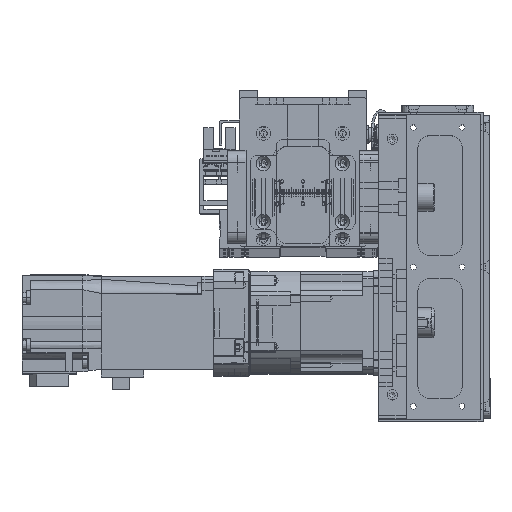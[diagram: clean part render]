
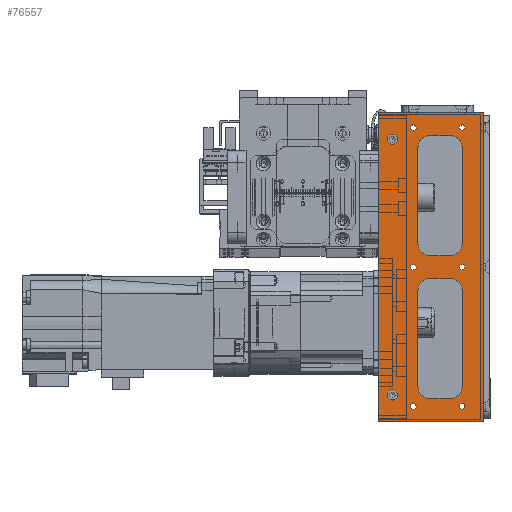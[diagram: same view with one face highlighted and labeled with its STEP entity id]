
A CAD part, top view. The second image highlights one B-rep face of the part: STEP entity #76557.
In plain terms, the highlighted planar face has unit normal (0, 0, 1) as drawn and (0, 1, 0) by its records, which use the part's own axes.
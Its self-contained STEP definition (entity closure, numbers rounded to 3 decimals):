
#1817=FACE_BOUND('',#12203,.T.);
#1818=FACE_BOUND('',#12204,.T.);
#1819=FACE_BOUND('',#12205,.T.);
#1820=FACE_BOUND('',#12206,.T.);
#1821=FACE_BOUND('',#12207,.T.);
#1822=FACE_BOUND('',#12208,.T.);
#1823=FACE_BOUND('',#12209,.T.);
#1824=FACE_BOUND('',#12210,.T.);
#1825=FACE_BOUND('',#12211,.T.);
#1826=FACE_BOUND('',#12212,.T.);
#3580=PLANE('',#84265);
#7542=FACE_OUTER_BOUND('',#12202,.T.);
#12202=EDGE_LOOP('',(#66249,#66250,#66251,#66252));
#12203=EDGE_LOOP('',(#66253));
#12204=EDGE_LOOP('',(#66254));
#12205=EDGE_LOOP('',(#66255));
#12206=EDGE_LOOP('',(#66256));
#12207=EDGE_LOOP('',(#66257));
#12208=EDGE_LOOP('',(#66258));
#12209=EDGE_LOOP('',(#66259));
#12210=EDGE_LOOP('',(#66260));
#12211=EDGE_LOOP('',(#66261,#66262,#66263,#66264,#66265,#66266,#66267,#66268));
#12212=EDGE_LOOP('',(#66269,#66270,#66271,#66272,#66273,#66274,#66275,#66276));
#16404=CIRCLE('',#84086,2.25);
#16408=CIRCLE('',#84092,2.25);
#16419=CIRCLE('',#84113,1.23);
#16423=CIRCLE('',#84119,1.23);
#16427=CIRCLE('',#84125,1.23);
#16431=CIRCLE('',#84131,1.23);
#16435=CIRCLE('',#84137,1.23);
#16439=CIRCLE('',#84143,1.23);
#16472=CIRCLE('',#84196,5.);
#16476=CIRCLE('',#84205,5.);
#16480=CIRCLE('',#84211,5.);
#16482=CIRCLE('',#84217,5.);
#16488=CIRCLE('',#84228,5.);
#16492=CIRCLE('',#84237,5.);
#16496=CIRCLE('',#84243,5.);
#16498=CIRCLE('',#84249,5.);
#21258=LINE('',#127750,#28999);
#21273=LINE('',#127780,#29014);
#21344=LINE('',#128070,#29085);
#21349=LINE('',#128081,#29090);
#21356=LINE('',#128106,#29097);
#21361=LINE('',#128117,#29102);
#21376=LINE('',#128166,#29117);
#21381=LINE('',#128177,#29122);
#21388=LINE('',#128202,#29129);
#21393=LINE('',#128213,#29134);
#21413=LINE('',#128263,#29154);
#21414=LINE('',#128265,#29155);
#28999=VECTOR('',#101171,10.);
#29014=VECTOR('',#101190,10.);
#29085=VECTOR('',#101505,10.);
#29090=VECTOR('',#101514,10.);
#29097=VECTOR('',#101541,10.);
#29102=VECTOR('',#101550,10.);
#29117=VECTOR('',#101601,10.);
#29122=VECTOR('',#101610,10.);
#29129=VECTOR('',#101637,10.);
#29134=VECTOR('',#101646,10.);
#29154=VECTOR('',#101702,10.);
#29155=VECTOR('',#101705,10.);
#37149=VERTEX_POINT('',#127747);
#37150=VERTEX_POINT('',#127749);
#37163=VERTEX_POINT('',#127778);
#37168=VERTEX_POINT('',#127798);
#37172=VERTEX_POINT('',#127810);
#37191=VERTEX_POINT('',#127868);
#37195=VERTEX_POINT('',#127880);
#37199=VERTEX_POINT('',#127892);
#37203=VERTEX_POINT('',#127904);
#37207=VERTEX_POINT('',#127916);
#37211=VERTEX_POINT('',#127928);
#37253=VERTEX_POINT('',#128051);
#37254=VERTEX_POINT('',#128053);
#37260=VERTEX_POINT('',#128068);
#37264=VERTEX_POINT('',#128080);
#37266=VERTEX_POINT('',#128086);
#37270=VERTEX_POINT('',#128098);
#37272=VERTEX_POINT('',#128104);
#37276=VERTEX_POINT('',#128116);
#37285=VERTEX_POINT('',#128147);
#37286=VERTEX_POINT('',#128149);
#37292=VERTEX_POINT('',#128164);
#37296=VERTEX_POINT('',#128176);
#37298=VERTEX_POINT('',#128182);
#37302=VERTEX_POINT('',#128194);
#37304=VERTEX_POINT('',#128200);
#37308=VERTEX_POINT('',#128212);
#37320=VERTEX_POINT('',#128261);
#47065=EDGE_CURVE('',#37149,#37150,#21258,.T.);
#47081=EDGE_CURVE('',#37163,#37149,#21273,.T.);
#47091=EDGE_CURVE('',#37168,#37168,#16404,.T.);
#47097=EDGE_CURVE('',#37172,#37172,#16408,.T.);
#47125=EDGE_CURVE('',#37191,#37191,#16419,.T.);
#47131=EDGE_CURVE('',#37195,#37195,#16423,.T.);
#47137=EDGE_CURVE('',#37199,#37199,#16427,.T.);
#47143=EDGE_CURVE('',#37203,#37203,#16431,.T.);
#47149=EDGE_CURVE('',#37207,#37207,#16435,.T.);
#47155=EDGE_CURVE('',#37211,#37211,#16439,.T.);
#47217=EDGE_CURVE('',#37254,#37253,#16472,.T.);
#47225=EDGE_CURVE('',#37253,#37260,#21344,.T.);
#47230=EDGE_CURVE('',#37264,#37254,#21349,.T.);
#47234=EDGE_CURVE('',#37260,#37266,#16476,.T.);
#47239=EDGE_CURVE('',#37270,#37264,#16480,.T.);
#47243=EDGE_CURVE('',#37266,#37272,#21356,.T.);
#47248=EDGE_CURVE('',#37276,#37270,#21361,.T.);
#47251=EDGE_CURVE('',#37272,#37276,#16482,.T.);
#47265=EDGE_CURVE('',#37286,#37285,#16488,.T.);
#47273=EDGE_CURVE('',#37285,#37292,#21376,.T.);
#47278=EDGE_CURVE('',#37296,#37286,#21381,.T.);
#47282=EDGE_CURVE('',#37292,#37298,#16492,.T.);
#47287=EDGE_CURVE('',#37302,#37296,#16496,.T.);
#47291=EDGE_CURVE('',#37298,#37304,#21388,.T.);
#47296=EDGE_CURVE('',#37308,#37302,#21393,.T.);
#47299=EDGE_CURVE('',#37304,#37308,#16498,.T.);
#47322=EDGE_CURVE('',#37320,#37150,#21413,.T.);
#47323=EDGE_CURVE('',#37163,#37320,#21414,.T.);
#66249=ORIENTED_EDGE('',*,*,#47323,.T.);
#66250=ORIENTED_EDGE('',*,*,#47322,.T.);
#66251=ORIENTED_EDGE('',*,*,#47065,.F.);
#66252=ORIENTED_EDGE('',*,*,#47081,.F.);
#66253=ORIENTED_EDGE('',*,*,#47091,.T.);
#66254=ORIENTED_EDGE('',*,*,#47097,.T.);
#66255=ORIENTED_EDGE('',*,*,#47125,.T.);
#66256=ORIENTED_EDGE('',*,*,#47131,.T.);
#66257=ORIENTED_EDGE('',*,*,#47137,.T.);
#66258=ORIENTED_EDGE('',*,*,#47143,.T.);
#66259=ORIENTED_EDGE('',*,*,#47149,.T.);
#66260=ORIENTED_EDGE('',*,*,#47155,.T.);
#66261=ORIENTED_EDGE('',*,*,#47251,.T.);
#66262=ORIENTED_EDGE('',*,*,#47248,.T.);
#66263=ORIENTED_EDGE('',*,*,#47239,.T.);
#66264=ORIENTED_EDGE('',*,*,#47230,.T.);
#66265=ORIENTED_EDGE('',*,*,#47217,.T.);
#66266=ORIENTED_EDGE('',*,*,#47225,.T.);
#66267=ORIENTED_EDGE('',*,*,#47234,.T.);
#66268=ORIENTED_EDGE('',*,*,#47243,.T.);
#66269=ORIENTED_EDGE('',*,*,#47299,.T.);
#66270=ORIENTED_EDGE('',*,*,#47296,.T.);
#66271=ORIENTED_EDGE('',*,*,#47287,.T.);
#66272=ORIENTED_EDGE('',*,*,#47278,.T.);
#66273=ORIENTED_EDGE('',*,*,#47265,.T.);
#66274=ORIENTED_EDGE('',*,*,#47273,.T.);
#66275=ORIENTED_EDGE('',*,*,#47282,.T.);
#66276=ORIENTED_EDGE('',*,*,#47291,.T.);
#76557=ADVANCED_FACE('',(#7542,#1817,#1818,#1819,#1820,#1821,#1822,#1823,
#1824,#1825,#1826),#3580,.T.);
#84086=AXIS2_PLACEMENT_3D('',#127800,#101212,#101213);
#84092=AXIS2_PLACEMENT_3D('',#127812,#101226,#101227);
#84113=AXIS2_PLACEMENT_3D('',#127869,#101285,#101286);
#84119=AXIS2_PLACEMENT_3D('',#127881,#101299,#101300);
#84125=AXIS2_PLACEMENT_3D('',#127893,#101313,#101314);
#84131=AXIS2_PLACEMENT_3D('',#127905,#101327,#101328);
#84137=AXIS2_PLACEMENT_3D('',#127917,#101341,#101342);
#84143=AXIS2_PLACEMENT_3D('',#127929,#101355,#101356);
#84196=AXIS2_PLACEMENT_3D('',#128054,#101490,#101491);
#84205=AXIS2_PLACEMENT_3D('',#128088,#101521,#101522);
#84211=AXIS2_PLACEMENT_3D('',#128099,#101534,#101535);
#84217=AXIS2_PLACEMENT_3D('',#128121,#101556,#101557);
#84228=AXIS2_PLACEMENT_3D('',#128150,#101586,#101587);
#84237=AXIS2_PLACEMENT_3D('',#128184,#101617,#101618);
#84243=AXIS2_PLACEMENT_3D('',#128195,#101630,#101631);
#84249=AXIS2_PLACEMENT_3D('',#128217,#101652,#101653);
#84265=AXIS2_PLACEMENT_3D('',#128264,#101703,#101704);
#101171=DIRECTION('',(1.,0.,0.));
#101190=DIRECTION('',(0.,0.,-1.));
#101212=DIRECTION('center_axis',(0.,-1.,0.));
#101213=DIRECTION('ref_axis',(1.,0.,0.));
#101226=DIRECTION('center_axis',(0.,-1.,0.));
#101227=DIRECTION('ref_axis',(1.,0.,0.));
#101285=DIRECTION('center_axis',(0.,-1.,0.));
#101286=DIRECTION('ref_axis',(1.,0.,0.));
#101299=DIRECTION('center_axis',(0.,-1.,0.));
#101300=DIRECTION('ref_axis',(1.,0.,0.));
#101313=DIRECTION('center_axis',(0.,-1.,0.));
#101314=DIRECTION('ref_axis',(1.,0.,0.));
#101327=DIRECTION('center_axis',(0.,-1.,0.));
#101328=DIRECTION('ref_axis',(1.,0.,0.));
#101341=DIRECTION('center_axis',(0.,-1.,0.));
#101342=DIRECTION('ref_axis',(1.,0.,0.));
#101355=DIRECTION('center_axis',(0.,-1.,0.));
#101356=DIRECTION('ref_axis',(1.,0.,0.));
#101490=DIRECTION('center_axis',(0.,-1.,0.));
#101491=DIRECTION('ref_axis',(0.,0.,-1.));
#101505=DIRECTION('',(-1.,0.,0.));
#101514=DIRECTION('',(0.,0.,1.));
#101521=DIRECTION('center_axis',(0.,-1.,0.));
#101522=DIRECTION('ref_axis',(1.,0.,0.));
#101534=DIRECTION('center_axis',(0.,-1.,0.));
#101535=DIRECTION('ref_axis',(-1.,0.,0.));
#101541=DIRECTION('',(0.,0.,-1.));
#101550=DIRECTION('',(1.,0.,0.));
#101556=DIRECTION('center_axis',(0.,-1.,0.));
#101557=DIRECTION('ref_axis',(0.,0.,1.));
#101586=DIRECTION('center_axis',(0.,-1.,0.));
#101587=DIRECTION('ref_axis',(1.,0.,0.));
#101601=DIRECTION('',(0.,0.,-1.));
#101610=DIRECTION('',(-1.,0.,0.));
#101617=DIRECTION('center_axis',(0.,-1.,0.));
#101618=DIRECTION('ref_axis',(0.,0.,1.));
#101630=DIRECTION('center_axis',(0.,-1.,0.));
#101631=DIRECTION('ref_axis',(0.,0.,-1.));
#101637=DIRECTION('',(1.,0.,0.));
#101646=DIRECTION('',(0.,0.,1.));
#101652=DIRECTION('center_axis',(0.,-1.,0.));
#101653=DIRECTION('ref_axis',(-1.,0.,0.));
#101702=DIRECTION('',(0.,0.,-1.));
#101703=DIRECTION('center_axis',(0.,1.,0.));
#101704=DIRECTION('ref_axis',(1.,0.,0.));
#101705=DIRECTION('',(1.,0.,0.));
#127747=CARTESIAN_POINT('',(-66.5,28.,-45.));
#127749=CARTESIAN_POINT('',(66.5,28.,-45.));
#127750=CARTESIAN_POINT('',(-66.5,28.,-45.));
#127778=CARTESIAN_POINT('',(-66.5,28.,0.));
#127780=CARTESIAN_POINT('',(-66.5,28.,0.));
#127798=CARTESIAN_POINT('',(52.75,28.,-39.));
#127800=CARTESIAN_POINT('Origin',(55.,28.,-39.));
#127810=CARTESIAN_POINT('',(-57.25,28.,-39.));
#127812=CARTESIAN_POINT('Origin',(-55.,28.,-39.));
#127868=CARTESIAN_POINT('',(58.771,28.,-30.));
#127869=CARTESIAN_POINT('Origin',(60.,28.,-30.));
#127880=CARTESIAN_POINT('',(-61.23,28.,-30.));
#127881=CARTESIAN_POINT('Origin',(-60.,28.,-30.));
#127892=CARTESIAN_POINT('',(-1.23,28.,-30.));
#127893=CARTESIAN_POINT('Origin',(0.,28.,-30.));
#127904=CARTESIAN_POINT('',(-1.23,28.,-9.));
#127905=CARTESIAN_POINT('Origin',(0.,28.,-9.));
#127916=CARTESIAN_POINT('',(-61.23,28.,-9.));
#127917=CARTESIAN_POINT('Origin',(-60.,28.,-9.));
#127928=CARTESIAN_POINT('',(58.771,28.,-9.));
#127929=CARTESIAN_POINT('Origin',(60.,28.,-9.));
#128051=CARTESIAN_POINT('',(-10.,28.,-9.));
#128053=CARTESIAN_POINT('',(-5.,28.,-14.));
#128054=CARTESIAN_POINT('Origin',(-10.,28.,-14.));
#128068=CARTESIAN_POINT('',(-51.5,28.,-9.));
#128070=CARTESIAN_POINT('',(-38.25,28.,-9.));
#128080=CARTESIAN_POINT('',(-5.,28.,-23.));
#128081=CARTESIAN_POINT('',(-5.,28.,-11.5));
#128086=CARTESIAN_POINT('',(-56.5,28.,-14.));
#128088=CARTESIAN_POINT('Origin',(-51.5,28.,-14.));
#128098=CARTESIAN_POINT('',(-10.,28.,-28.));
#128099=CARTESIAN_POINT('Origin',(-10.,28.,-23.));
#128104=CARTESIAN_POINT('',(-56.5,28.,-23.));
#128106=CARTESIAN_POINT('',(-56.5,28.,-7.));
#128116=CARTESIAN_POINT('',(-51.5,28.,-28.));
#128117=CARTESIAN_POINT('',(-59.,28.,-28.));
#128121=CARTESIAN_POINT('Origin',(-51.5,28.,-23.));
#128147=CARTESIAN_POINT('',(5.,28.,-14.));
#128149=CARTESIAN_POINT('',(10.,28.,-9.));
#128150=CARTESIAN_POINT('Origin',(10.,28.,-14.));
#128164=CARTESIAN_POINT('',(5.,28.,-23.));
#128166=CARTESIAN_POINT('',(5.,28.,-7.));
#128176=CARTESIAN_POINT('',(51.5,28.,-9.));
#128177=CARTESIAN_POINT('',(-7.5,28.,-9.));
#128182=CARTESIAN_POINT('',(10.,28.,-28.));
#128184=CARTESIAN_POINT('Origin',(10.,28.,-23.));
#128194=CARTESIAN_POINT('',(56.5,28.,-14.));
#128195=CARTESIAN_POINT('Origin',(51.5,28.,-14.));
#128200=CARTESIAN_POINT('',(51.5,28.,-28.));
#128202=CARTESIAN_POINT('',(-28.25,28.,-28.));
#128212=CARTESIAN_POINT('',(56.5,28.,-23.));
#128213=CARTESIAN_POINT('',(56.5,28.,-11.5));
#128217=CARTESIAN_POINT('Origin',(51.5,28.,-23.));
#128261=CARTESIAN_POINT('',(66.5,28.,0.));
#128263=CARTESIAN_POINT('',(66.5,28.,0.));
#128264=CARTESIAN_POINT('Origin',(-66.5,28.,0.));
#128265=CARTESIAN_POINT('',(-66.5,28.,0.));
